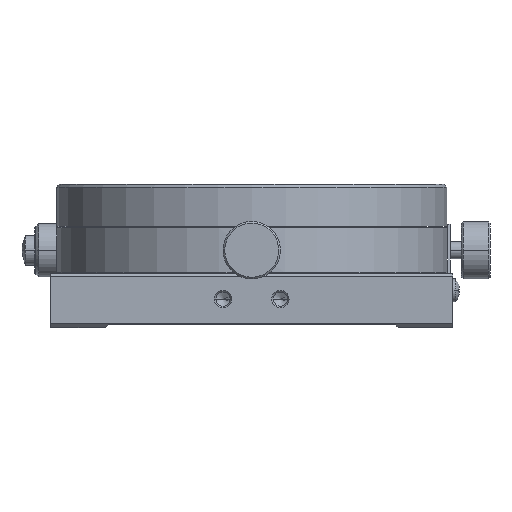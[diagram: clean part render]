
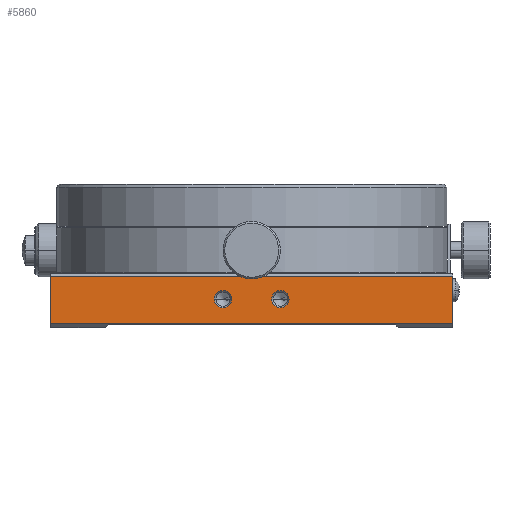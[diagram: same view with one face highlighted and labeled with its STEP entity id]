
A CAD part, left-side view. The second image highlights one B-rep face of the part: STEP entity #5860.
In plain terms, the highlighted planar face has unit normal (-1, 0, 0).
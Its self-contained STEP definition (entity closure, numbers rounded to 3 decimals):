
#3706 = EDGE_CURVE ( 'NONE', #3733, #3707, #15594, .T. ) ;
#3707 = VERTEX_POINT ( 'NONE', #15646 ) ;
#3733 = VERTEX_POINT ( 'NONE', #15665 ) ;
#3742 = EDGE_CURVE ( 'NONE', #3770, #3743, #15713, .T. ) ;
#3743 = VERTEX_POINT ( 'NONE', #15709 ) ;
#3770 = VERTEX_POINT ( 'NONE', #15722 ) ;
#5772 = EDGE_CURVE ( 'NONE', #5797, #5773, #19604, .T. ) ;
#5773 = VERTEX_POINT ( 'NONE', #19662 ) ;
#5797 = VERTEX_POINT ( 'NONE', #19685 ) ;
#5852 = EDGE_CURVE ( 'NONE', #5929, #5773, #19781, .T. ) ;
#5855 = VERTEX_POINT ( 'NONE', #19773 ) ;
#5857 = EDGE_CURVE ( 'NONE', #5855, #5797, #19772, .T. ) ;
#5860 = ADVANCED_FACE ( 'NONE', ( #19768, #19767, #19766 ), #19765, .T. ) ;
#5861 = EDGE_LOOP ( 'NONE', ( #5862, #5919 ) ) ;
#5862 = ORIENTED_EDGE ( 'NONE', *, *, #5863, .F. ) ;
#5863 = EDGE_CURVE ( 'NONE', #3707, #3733, #19824, .T. ) ;
#5919 = ORIENTED_EDGE ( 'NONE', *, *, #3706, .F. ) ;
#5920 = EDGE_LOOP ( 'NONE', ( #5921, #5923 ) ) ;
#5921 = ORIENTED_EDGE ( 'NONE', *, *, #5922, .F. ) ;
#5922 = EDGE_CURVE ( 'NONE', #3743, #3770, #19865, .T. ) ;
#5923 = ORIENTED_EDGE ( 'NONE', *, *, #3742, .F. ) ;
#5924 = EDGE_LOOP ( 'NONE', ( #5925, #5926, #5927, #5930 ) ) ;
#5925 = ORIENTED_EDGE ( 'NONE', *, *, #5772, .F. ) ;
#5926 = ORIENTED_EDGE ( 'NONE', *, *, #5857, .F. ) ;
#5927 = ORIENTED_EDGE ( 'NONE', *, *, #5928, .T. ) ;
#5928 = EDGE_CURVE ( 'NONE', #5855, #5929, #19925, .T. ) ;
#5929 = VERTEX_POINT ( 'NONE', #19921 ) ;
#5930 = ORIENTED_EDGE ( 'NONE', *, *, #5852, .T. ) ;
#15594 = CIRCLE ( 'NONE', #15650, 1.5 ) ;
#15646 = CARTESIAN_POINT ( 'NONE',  ( -35., -6.5, 5. ) ) ;
#15647 = DIRECTION ( 'NONE',  ( 0., -1., 0. ) ) ;
#15648 = DIRECTION ( 'NONE',  ( -1., 0., 0. ) ) ;
#15649 = CARTESIAN_POINT ( 'NONE',  ( -35., -5., 5. ) ) ;
#15650 = AXIS2_PLACEMENT_3D ( 'NONE', #15649, #15648, #15647 ) ;
#15655 = CARTESIAN_POINT ( 'NONE',  ( -35., 5., 5. ) ) ;
#15665 = CARTESIAN_POINT ( 'NONE',  ( -35., -3.5, 5. ) ) ;
#15709 = CARTESIAN_POINT ( 'NONE',  ( -35., 3.5, 5. ) ) ;
#15710 = DIRECTION ( 'NONE',  ( 0., -1., 0. ) ) ;
#15711 = DIRECTION ( 'NONE',  ( -1., 0., 0. ) ) ;
#15712 = AXIS2_PLACEMENT_3D ( 'NONE', #15655, #15711, #15710 ) ;
#15713 = CIRCLE ( 'NONE', #15712, 1.5 ) ;
#15722 = CARTESIAN_POINT ( 'NONE',  ( -35., 6.5, 5. ) ) ;
#19604 = LINE ( 'NONE', #19665, #19664 ) ;
#19662 = CARTESIAN_POINT ( 'NONE',  ( -35., 35., 9. ) ) ;
#19663 = DIRECTION ( 'NONE',  ( 0., 0., 1. ) ) ;
#19664 = VECTOR ( 'NONE', #19663, 1000. ) ;
#19665 = CARTESIAN_POINT ( 'NONE',  ( -35., 35., 0.8 ) ) ;
#19685 = CARTESIAN_POINT ( 'NONE',  ( -35., 35., 0.8 ) ) ;
#19764 = AXIS2_PLACEMENT_3D ( 'NONE', #19827, #19826, #19825 ) ;
#19765 = PLANE ( 'NONE',  #19764 ) ;
#19766 = FACE_OUTER_BOUND ( 'NONE', #5924, .T. ) ;
#19767 = FACE_BOUND ( 'NONE', #5920, .T. ) ;
#19768 = FACE_BOUND ( 'NONE', #5861, .T. ) ;
#19769 = DIRECTION ( 'NONE',  ( 0., 1., 0. ) ) ;
#19770 = VECTOR ( 'NONE', #19769, 1000. ) ;
#19771 = CARTESIAN_POINT ( 'NONE',  ( -35., -35., 0.8 ) ) ;
#19772 = LINE ( 'NONE', #19771, #19770 ) ;
#19773 = CARTESIAN_POINT ( 'NONE',  ( -35., -35., 0.8 ) ) ;
#19778 = DIRECTION ( 'NONE',  ( 0., 1., 0. ) ) ;
#19779 = VECTOR ( 'NONE', #19778, 1000. ) ;
#19780 = CARTESIAN_POINT ( 'NONE',  ( -35., -35., 9. ) ) ;
#19781 = LINE ( 'NONE', #19780, #19779 ) ;
#19820 = DIRECTION ( 'NONE',  ( 0., -1., 0. ) ) ;
#19821 = DIRECTION ( 'NONE',  ( -1., 0., 0. ) ) ;
#19822 = CARTESIAN_POINT ( 'NONE',  ( -35., -5., 5. ) ) ;
#19823 = AXIS2_PLACEMENT_3D ( 'NONE', #19822, #19821, #19820 ) ;
#19824 = CIRCLE ( 'NONE', #19823, 1.5 ) ;
#19825 = DIRECTION ( 'NONE',  ( 0., 1., 0. ) ) ;
#19826 = DIRECTION ( 'NONE',  ( -1., 0., 0. ) ) ;
#19827 = CARTESIAN_POINT ( 'NONE',  ( -35., -35., 0.8 ) ) ;
#19861 = DIRECTION ( 'NONE',  ( 0., -1., 0. ) ) ;
#19862 = DIRECTION ( 'NONE',  ( -1., 0., 0. ) ) ;
#19863 = CARTESIAN_POINT ( 'NONE',  ( -35., 5., 5. ) ) ;
#19864 = AXIS2_PLACEMENT_3D ( 'NONE', #19863, #19862, #19861 ) ;
#19865 = CIRCLE ( 'NONE', #19864, 1.5 ) ;
#19921 = CARTESIAN_POINT ( 'NONE',  ( -35., -35., 9. ) ) ;
#19922 = DIRECTION ( 'NONE',  ( 0., 0., 1. ) ) ;
#19923 = VECTOR ( 'NONE', #19922, 1000. ) ;
#19924 = CARTESIAN_POINT ( 'NONE',  ( -35., -35., 0.8 ) ) ;
#19925 = LINE ( 'NONE', #19924, #19923 ) ;
